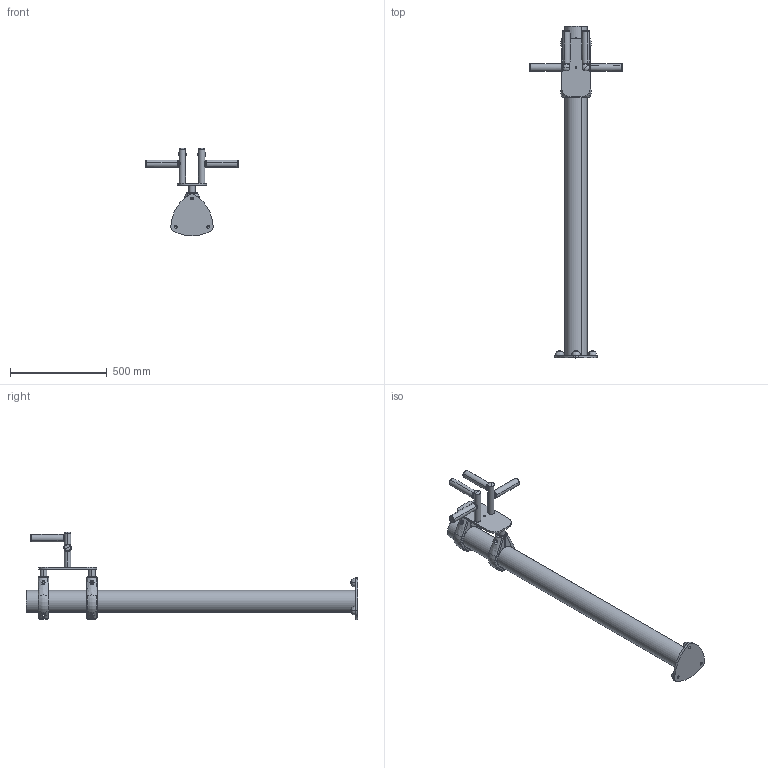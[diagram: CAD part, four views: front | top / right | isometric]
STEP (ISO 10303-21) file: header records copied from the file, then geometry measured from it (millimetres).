
FILE_DESCRIPTION (( 'STEP AP214' ), '1' );
FILE_NAME ('PMS0821 - POIGNÉE TOURNANTE.STEP', '2025-05-27T07:56:15', ( '' ), ( '' ), 'SwSTEP 2.0', 'SolidWorks 2024', '' );
FILE_SCHEMA (( 'AUTOMOTIVE_DESIGN' ));
Length unit declared in the file: millimetre
Products named in the file (1): PMS0821 - POIGNÉE TOURNANTE
Bounding box: 481.6 x 1715 x 453.13 mm (x, y, z)
Surface area: 1150333.4 mm2 (no closed solid volume)
Topology: 0 solids, 47 shells, 506 faces, 1645 edges, 1119 vertices
Faces by surface type: bspline 173, cylinder 143, plane 111, torus 57, sphere 14, cone 8
Entity records: 28487 total; most frequent: CARTESIAN_POINT 16105, ORIENTED_EDGE 2521, DIRECTION 2264, EDGE_CURVE 1633, VERTEX_POINT 1119, AXIS2_PLACEMENT_3D 921, CIRCLE 587, EDGE_LOOP 545
